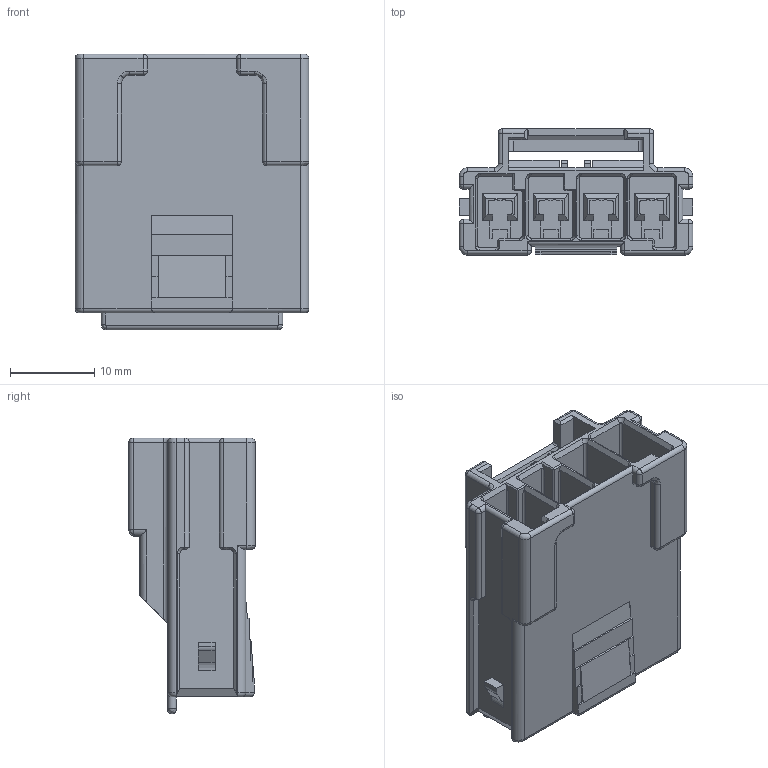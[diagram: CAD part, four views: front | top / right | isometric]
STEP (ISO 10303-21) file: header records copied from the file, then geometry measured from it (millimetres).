
FILE_DESCRIPTION((''),'2;1');
FILE_NAME('C-4-1971771-4','2017-03-30T',('workeradm'),('Tyco Electronics Ltd.'),'CREO PARAMETRIC BY PTC INC, 2016050','CREO PARAMETRIC BY PTC INC, 2016050','');
FILE_SCHEMA(('AUTOMOTIVE_DESIGN { 1 0 10303 214 1 1 1 1 }'));
Length unit declared in the file: millimetre
Products named in the file (1): C-4-1971771-4
Bounding box: 27.7 x 14.95 x 32.65 mm (x, y, z)
Volume: 6170.1 mm3; surface area: 5070.9 mm2
Topology: 1 solids, 1 shells, 522 faces, 1390 edges, 876 vertices
Faces by surface type: plane 305, cylinder 161, cone 24, sphere 12, bspline 11, torus 9
Entity records: 17040 total; most frequent: CARTESIAN_POINT 3920, ORIENTED_EDGE 2780, DIRECTION 2684, EDGE_CURVE 1390, VECTOR 1022, LINE 1022, VERTEX_POINT 876, AXIS2_PLACEMENT_3D 831
